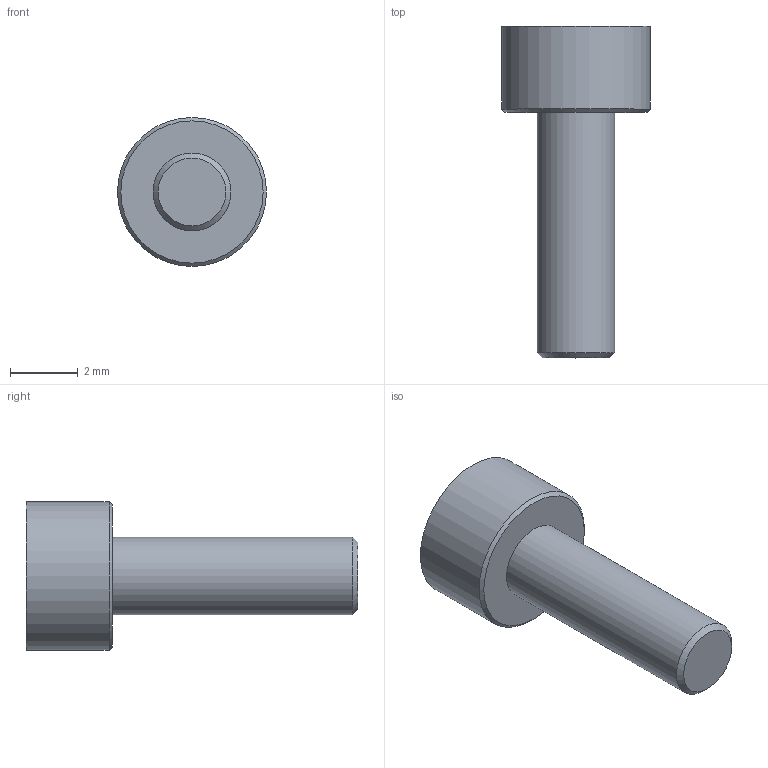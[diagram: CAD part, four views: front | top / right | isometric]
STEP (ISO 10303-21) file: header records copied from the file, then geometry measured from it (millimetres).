
FILE_DESCRIPTION (( 'STEP AP214' ), '1' );
FILE_NAME ('SK-8.STEP', '2018-10-09T18:04:21', ( '' ), ( '' ), 'SwSTEP 2.0', 'SolidWorks 2017', '' );
FILE_SCHEMA (( 'AUTOMOTIVE_DESIGN' ));
Length unit declared in the file: millimetre
Products named in the file (1): SK-8
Bounding box: 4.4 x 9.8 x 4.4 mm (x, y, z)
Volume: 68.2 mm3; surface area: 119.4 mm2
Topology: 1 solids, 1 shells, 20 faces, 48 edges, 32 vertices
Faces by surface type: plane 11, cylinder 7, cone 2
Full cylindrical faces by diameter (mm): 2.3 x1, 4.4 x1
Entity records: 574 total; most frequent: CARTESIAN_POINT 123, ORIENTED_EDGE 84, DIRECTION 80, EDGE_CURVE 42, VERTEX_POINT 30, AXIS2_PLACEMENT_3D 27, EDGE_LOOP 26, VECTOR 26
